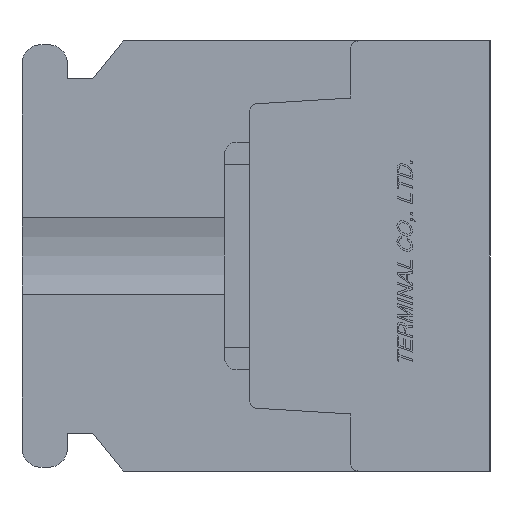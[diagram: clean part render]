
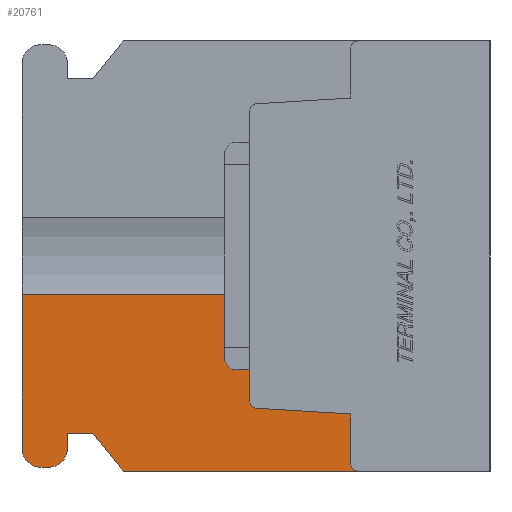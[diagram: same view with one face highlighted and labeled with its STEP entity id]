
A CAD part, left-side view. The second image highlights one B-rep face of the part: STEP entity #20761.
In plain terms, the highlighted planar face has unit normal (-1, 0, 0).
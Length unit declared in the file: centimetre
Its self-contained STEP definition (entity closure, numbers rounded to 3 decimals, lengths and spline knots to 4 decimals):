
#1355=VECTOR('',#22558,1.);
#1356=VECTOR('',#22559,1.);
#1357=VECTOR('',#22560,1.);
#1358=VECTOR('',#22563,1.);
#1359=VECTOR('',#22566,1.);
#1360=VECTOR('',#22567,1.);
#1361=VECTOR('',#22568,1.);
#1362=VECTOR('',#22569,1.);
#1363=VECTOR('',#22572,1.);
#1364=VECTOR('',#22573,1.);
#3538=LINE('',#28325,#1355);
#3539=LINE('',#28328,#1356);
#3540=LINE('',#28330,#1357);
#3541=LINE('',#28334,#1358);
#3542=LINE('',#28338,#1359);
#3543=LINE('',#28340,#1360);
#3544=LINE('',#28342,#1361);
#3545=LINE('',#28344,#1362);
#3546=LINE('',#28348,#1363);
#3547=LINE('',#28350,#1364);
#5340=PLANE('',#34244);
#6424=VERTEX_POINT('',#28326);
#6425=VERTEX_POINT('',#28327);
#6426=VERTEX_POINT('',#28329);
#6427=VERTEX_POINT('',#28331);
#6428=VERTEX_POINT('',#28333);
#6429=VERTEX_POINT('',#28335);
#6430=VERTEX_POINT('',#28337);
#6431=VERTEX_POINT('',#28339);
#6432=VERTEX_POINT('',#28341);
#6433=VERTEX_POINT('',#28343);
#6434=VERTEX_POINT('',#28345);
#6435=VERTEX_POINT('',#28347);
#6436=VERTEX_POINT('',#28349);
#6437=VERTEX_POINT('',#28351);
#8080=CIRCLE('',#34245,0.075);
#8081=CIRCLE('',#34246,0.075);
#8082=CIRCLE('',#34247,0.03);
#8083=CIRCLE('',#34248,0.03);
#9282=EDGE_CURVE('',#6424,#6425,#3538,.T.);
#9283=EDGE_CURVE('',#6424,#6426,#3539,.T.);
#9284=EDGE_CURVE('',#6427,#6426,#3540,.T.);
#9285=EDGE_CURVE('',#6428,#6427,#8080,.T.);
#9286=EDGE_CURVE('',#6429,#6428,#3541,.T.);
#9287=EDGE_CURVE('',#6430,#6429,#8081,.T.);
#9288=EDGE_CURVE('',#6431,#6430,#3542,.T.);
#9289=EDGE_CURVE('',#6432,#6431,#3543,.T.);
#9290=EDGE_CURVE('',#6433,#6432,#3544,.T.);
#9291=EDGE_CURVE('',#6434,#6433,#3545,.T.);
#9292=EDGE_CURVE('',#6435,#6434,#8082,.T.);
#9293=EDGE_CURVE('',#6436,#6435,#3546,.T.);
#9294=EDGE_CURVE('',#6437,#6436,#3547,.T.);
#9295=EDGE_CURVE('',#6425,#6437,#8083,.T.);
#13062=ORIENTED_EDGE('',*,*,#9282,.F.);
#13063=ORIENTED_EDGE('',*,*,#9283,.T.);
#13064=ORIENTED_EDGE('',*,*,#9284,.F.);
#13065=ORIENTED_EDGE('',*,*,#9285,.F.);
#13066=ORIENTED_EDGE('',*,*,#9286,.F.);
#13067=ORIENTED_EDGE('',*,*,#9287,.F.);
#13068=ORIENTED_EDGE('',*,*,#9288,.F.);
#13069=ORIENTED_EDGE('',*,*,#9289,.F.);
#13070=ORIENTED_EDGE('',*,*,#9290,.F.);
#13071=ORIENTED_EDGE('',*,*,#9291,.F.);
#13072=ORIENTED_EDGE('',*,*,#9292,.F.);
#13073=ORIENTED_EDGE('',*,*,#9293,.F.);
#13074=ORIENTED_EDGE('',*,*,#9294,.F.);
#13075=ORIENTED_EDGE('',*,*,#9295,.F.);
#18237=EDGE_LOOP('',(#13062,#13063,#13064,#13065,#13066,#13067,#13068,#13069,
#13070,#13071,#13072,#13073,#13074,#13075));
#19513=FACE_BOUND('',#18237,.T.);
#20761=ADVANCED_FACE('',(#19513),#5340,.F.);
#22557=DIRECTION('',(1.,0.,0.));
#22558=DIRECTION('',(0.,0.,-1.));
#22559=DIRECTION('',(0.,1.,0.));
#22560=DIRECTION('',(0.,0.,1.));
#22561=DIRECTION('',(1.,0.,0.));
#22562=DIRECTION('',(0.,0.,-0.075));
#22563=DIRECTION('',(0.,1.,0.));
#22564=DIRECTION('',(1.,0.,0.));
#22565=DIRECTION('',(0.,0.,-0.075));
#22566=DIRECTION('',(0.,0.,-1.));
#22567=DIRECTION('',(0.,1.,0.));
#22568=DIRECTION('',(0.,0.625,0.781));
#22569=DIRECTION('',(0.,1.,0.));
#22570=DIRECTION('',(-1.,0.,0.));
#22571=DIRECTION('',(0.,0.,0.03));
#22572=DIRECTION('',(0.,0.,-1.));
#22573=DIRECTION('',(0.,-0.998,-0.061));
#22574=DIRECTION('',(-1.,0.,0.));
#22575=DIRECTION('',(0.,0.,0.03));
#28324=CARTESIAN_POINT('',(-1.1,0.9454,0.));
#28325=CARTESIAN_POINT('',(-1.1,0.95,0.5718));
#28326=CARTESIAN_POINT('',(-1.1,0.95,-0.1521));
#28327=CARTESIAN_POINT('',(-1.1,0.95,-0.5718));
#28328=CARTESIAN_POINT('',(-1.1,1.4,-0.1521));
#28329=CARTESIAN_POINT('',(-1.1,1.85,-0.1521));
#28330=CARTESIAN_POINT('',(-1.1,1.85,-0.76));
#28331=CARTESIAN_POINT('',(-1.1,1.85,-0.76));
#28332=CARTESIAN_POINT('',(-1.1,1.775,-0.76));
#28333=CARTESIAN_POINT('',(-1.1,1.775,-0.835));
#28334=CARTESIAN_POINT('',(-1.1,1.745,-0.835));
#28335=CARTESIAN_POINT('',(-1.1,1.745,-0.835));
#28336=CARTESIAN_POINT('',(-1.1,1.745,-0.76));
#28337=CARTESIAN_POINT('',(-1.1,1.67,-0.76));
#28338=CARTESIAN_POINT('',(-1.1,1.67,-0.7));
#28339=CARTESIAN_POINT('',(-1.1,1.67,-0.7));
#28340=CARTESIAN_POINT('',(-1.1,1.57,-0.7));
#28341=CARTESIAN_POINT('',(-1.1,1.57,-0.7));
#28342=CARTESIAN_POINT('',(-1.1,1.45,-0.85));
#28343=CARTESIAN_POINT('',(-1.1,1.45,-0.85));
#28344=CARTESIAN_POINT('',(-1.1,0.,-0.85));
#28345=CARTESIAN_POINT('',(-1.1,0.52,-0.85));
#28346=CARTESIAN_POINT('',(-1.1,0.52,-0.82));
#28347=CARTESIAN_POINT('',(-1.1,0.55,-0.82));
#28348=CARTESIAN_POINT('',(-1.1,0.55,-0.6245));
#28349=CARTESIAN_POINT('',(-1.1,0.55,-0.6245));
#28350=CARTESIAN_POINT('',(-1.1,0.9218,-0.6017));
#28351=CARTESIAN_POINT('',(-1.1,0.9218,-0.6017));
#28352=CARTESIAN_POINT('',(-1.1,0.92,-0.5718));
#34244=AXIS2_PLACEMENT_3D('',#28324,#22557,$);
#34245=AXIS2_PLACEMENT_3D('',#28332,#22561,#22562);
#34246=AXIS2_PLACEMENT_3D('',#28336,#22564,#22565);
#34247=AXIS2_PLACEMENT_3D('',#28346,#22570,#22571);
#34248=AXIS2_PLACEMENT_3D('',#28352,#22574,#22575);
